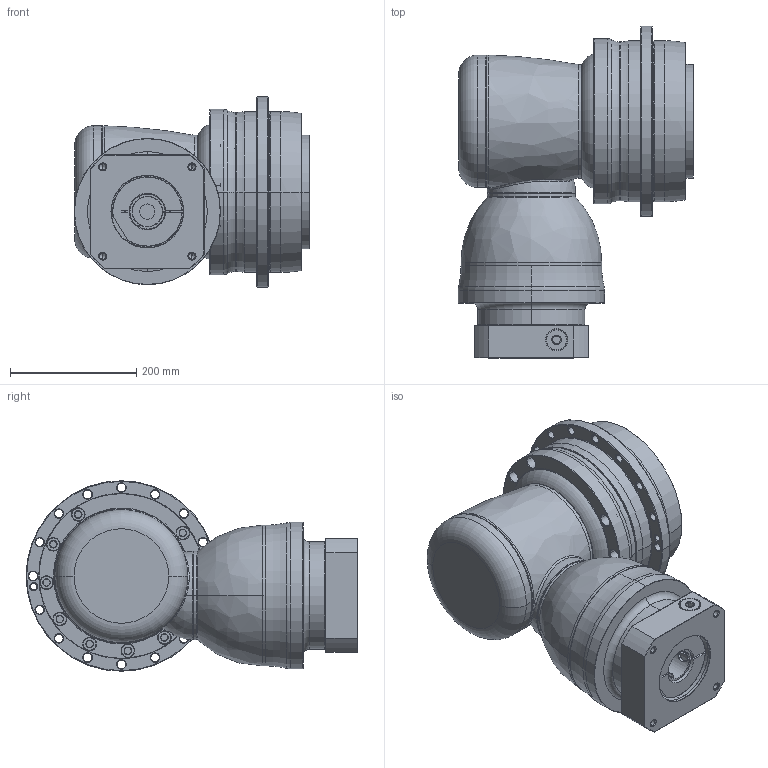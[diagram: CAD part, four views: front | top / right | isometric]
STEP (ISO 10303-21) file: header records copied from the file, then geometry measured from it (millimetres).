
FILE_DESCRIPTION((''),'2;1');
FILE_NAME('AHKB255_3ST_48-P0409B00101_ASM','2016-12-01T',('d01943'),(''),'PRO/ENGINEER BY PARAMETRIC TECHNOLOGY CORPORATION, 2008410','PRO/ENGINEER BY PARAMETRIC TECHNOLOGY CORPORATION, 2008410','');
FILE_SCHEMA(('CONFIG_CONTROL_DESIGN'));
Length unit declared in the file: millimetre
Products named in the file (12): P1008600002; P1802700001; P0278700003; P0359700003; P1315600001; P1007600001; P1317600601; P0409B00101; P0503B00016; P0912506001; 21711426021; AHKB255_3ST_48-P0409B00101_ASM
Assembly tree (11 placements, depth 2):
  AHKB255_3ST_48-P0409B00101_ASM
    P1008600002
    P1802700001
    P0278700003
    P0359700003
    P1315600001
    P1007600001
    P1317600601
    P0409B00101
    P0503B00016
    P0912506001
    21711426021
Bounding box: 373.5 x 526 x 302 mm (x, y, z)
Volume: 17399713.7 mm3; surface area: 1431890.5 mm2
Topology: 12 solids, 12 shells, 1007 faces, 2295 edges, 1326 vertices
Faces by surface type: cylinder 372, cone 338, plane 138, torus 122, bspline 35, sphere 2
Entity records: 34846 total; most frequent: CARTESIAN_POINT 11650, DIRECTION 5340, ORIENTED_EDGE 4434, AXIS2_PLACEMENT_3D 2279, EDGE_CURVE 2217, VERTEX_POINT 1326, CIRCLE 1284, EDGE_LOOP 1189
